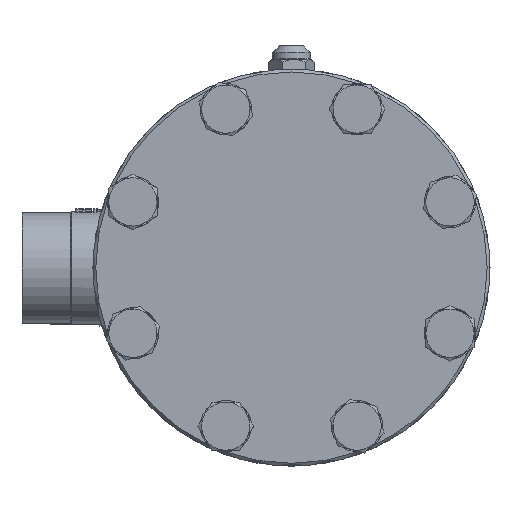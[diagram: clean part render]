
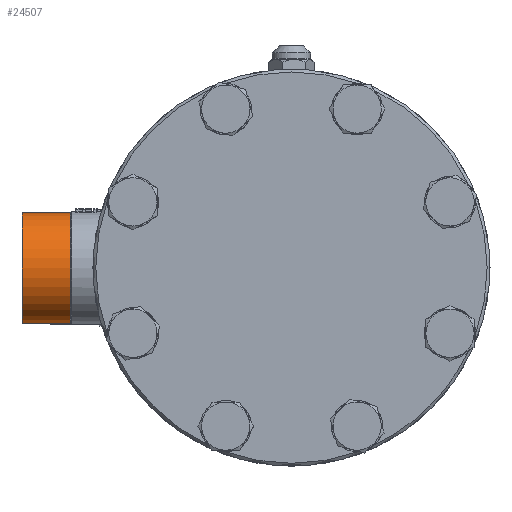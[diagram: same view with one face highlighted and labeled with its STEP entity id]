
A CAD part, top view. The second image highlights one B-rep face of the part: STEP entity #24507.
In plain terms, the highlighted cylindrical face has radius 19.5 mm (diameter 39 mm), a full revolution.
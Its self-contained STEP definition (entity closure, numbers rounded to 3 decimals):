
#1638=FACE_BOUND('',#7546,.T.);
#6049=FACE_OUTER_BOUND('',#7545,.T.);
#7545=EDGE_LOOP('',(#16794));
#7546=EDGE_LOOP('',(#16795));
#9228=CIRCLE('',#26062,19.5);
#9229=CIRCLE('',#26064,19.5);
#10361=VERTEX_POINT('',#34529);
#10362=VERTEX_POINT('',#34532);
#12931=EDGE_CURVE('',#10361,#10361,#9228,.T.);
#12932=EDGE_CURVE('',#10362,#10362,#9229,.T.);
#16794=ORIENTED_EDGE('',*,*,#12931,.F.);
#16795=ORIENTED_EDGE('',*,*,#12932,.T.);
#24334=CYLINDRICAL_SURFACE('',#26063,19.5);
#24507=ADVANCED_FACE('',(#6049,#1638),#24334,.T.);
#26062=AXIS2_PLACEMENT_3D('',#34530,#28290,#28291);
#26063=AXIS2_PLACEMENT_3D('',#34531,#28292,#28293);
#26064=AXIS2_PLACEMENT_3D('',#34533,#28294,#28295);
#28290=DIRECTION('center_axis',(-1.,0.,0.));
#28291=DIRECTION('ref_axis',(0.,-1.,0.));
#28292=DIRECTION('center_axis',(-1.,0.,0.));
#28293=DIRECTION('ref_axis',(0.,-1.,0.));
#28294=DIRECTION('center_axis',(-1.,0.,0.));
#28295=DIRECTION('ref_axis',(0.,-1.,0.));
#34529=CARTESIAN_POINT('',(-95.,-19.5,290.));
#34530=CARTESIAN_POINT('Origin',(-95.,0.,
290.));
#34531=CARTESIAN_POINT('Origin',(-86.5,0.,
290.));
#34532=CARTESIAN_POINT('',(-78.,-19.5,290.));
#34533=CARTESIAN_POINT('Origin',(-78.,0.,
290.));
